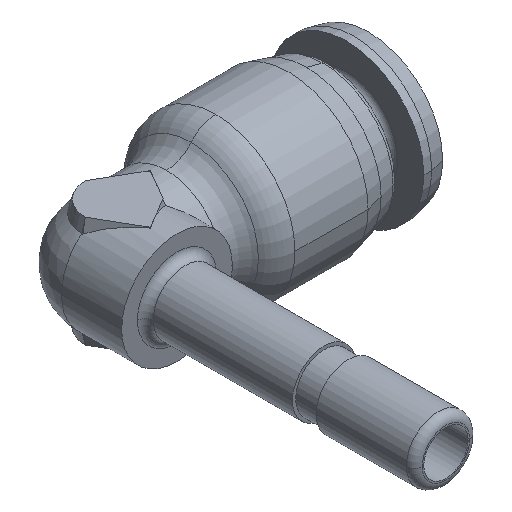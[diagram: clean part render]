
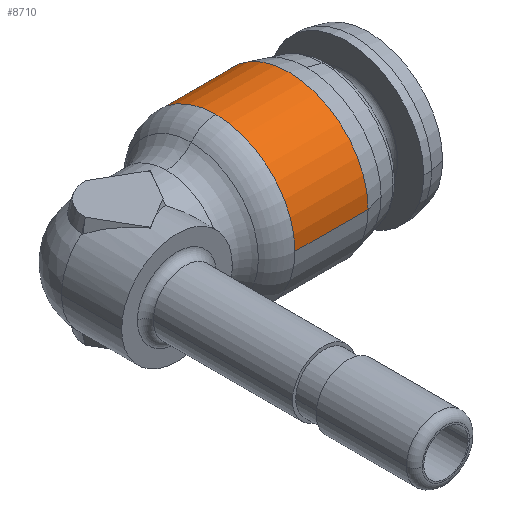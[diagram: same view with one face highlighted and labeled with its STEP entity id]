
A CAD part, isometric view. The second image highlights one B-rep face of the part: STEP entity #8710.
In plain terms, the highlighted cylindrical face has radius 5 mm (diameter 10 mm), a partial arc.
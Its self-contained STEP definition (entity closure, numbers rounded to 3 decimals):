
#33 = CARTESIAN_POINT ( 'NONE',  ( 6.256, 0., 5. ) ) ;
#73 = LINE ( 'NONE', #4154, #2238 ) ;
#185 = ORIENTED_EDGE ( 'NONE', *, *, #1945, .F. ) ;
#266 = VERTEX_POINT ( 'NONE', #2298 ) ;
#426 = CARTESIAN_POINT ( 'NONE',  ( 6.256, 0., 0. ) ) ;
#608 = ORIENTED_EDGE ( 'NONE', *, *, #8296, .F. ) ;
#633 = CARTESIAN_POINT ( 'NONE',  ( 6.256, 0., 0. ) ) ;
#659 = EDGE_CURVE ( 'NONE', #5166, #266, #4257, .T. ) ;
#1052 = DIRECTION ( 'NONE',  ( 1., 0., 0. ) ) ;
#1136 = AXIS2_PLACEMENT_3D ( 'NONE', #426, #5481, #1154 ) ;
#1154 = DIRECTION ( 'NONE',  ( 0., 0., 1. ) ) ;
#1370 = DIRECTION ( 'NONE',  ( 0., 0., 1. ) ) ;
#1410 = ORIENTED_EDGE ( 'NONE', *, *, #5561, .F. ) ;
#1945 = EDGE_CURVE ( 'NONE', #7526, #266, #3255, .T. ) ;
#2198 = ORIENTED_EDGE ( 'NONE', *, *, #659, .T. ) ;
#2238 = VECTOR ( 'NONE', #9237, 1000. ) ;
#2298 = CARTESIAN_POINT ( 'NONE',  ( 10.88, -5., 0. ) ) ;
#2577 = CARTESIAN_POINT ( 'NONE',  ( 12., -5., 0. ) ) ;
#3255 = CIRCLE ( 'NONE', #4081, 5. ) ;
#3706 = CIRCLE ( 'NONE', #5424, 5. ) ;
#3881 = CARTESIAN_POINT ( 'NONE',  ( 12., 0., 0. ) ) ;
#4069 = CARTESIAN_POINT ( 'NONE',  ( 6.256, 5., 0. ) ) ;
#4081 = AXIS2_PLACEMENT_3D ( 'NONE', #5384, #1052, #6124 ) ;
#4154 = CARTESIAN_POINT ( 'NONE',  ( 12., 5., 0. ) ) ;
#4170 = EDGE_CURVE ( 'NONE', #7953, #7526, #73, .T. ) ;
#4257 = LINE ( 'NONE', #2577, #4703 ) ;
#4703 = VECTOR ( 'NONE', #9101, 1000. ) ;
#4712 = CARTESIAN_POINT ( 'NONE',  ( 10.88, 5., 0. ) ) ;
#4796 = VERTEX_POINT ( 'NONE', #33 ) ;
#5166 = VERTEX_POINT ( 'NONE', #8079 ) ;
#5384 = CARTESIAN_POINT ( 'NONE',  ( 10.88, 0., 0. ) ) ;
#5424 = AXIS2_PLACEMENT_3D ( 'NONE', #633, #5699, #1370 ) ;
#5481 = DIRECTION ( 'NONE',  ( -1., 0., 0. ) ) ;
#5484 = CIRCLE ( 'NONE', #1136, 5. ) ;
#5561 = EDGE_CURVE ( 'NONE', #4796, #7953, #3706, .T. ) ;
#5699 = DIRECTION ( 'NONE',  ( -1., 0., 0. ) ) ;
#6124 = DIRECTION ( 'NONE',  ( 0., 1., 0. ) ) ;
#6573 = ORIENTED_EDGE ( 'NONE', *, *, #4170, .F. ) ;
#6847 = EDGE_LOOP ( 'NONE', ( #608, #2198, #185, #6573, #1410 ) ) ;
#6955 = FACE_OUTER_BOUND ( 'NONE', #6847, .T. ) ;
#7526 = VERTEX_POINT ( 'NONE', #4712 ) ;
#7953 = VERTEX_POINT ( 'NONE', #4069 ) ;
#8021 = DIRECTION ( 'NONE',  ( 1., 0., 0. ) ) ;
#8079 = CARTESIAN_POINT ( 'NONE',  ( 6.256, -5., 0. ) ) ;
#8210 = CYLINDRICAL_SURFACE ( 'NONE', #9402, 5. ) ;
#8296 = EDGE_CURVE ( 'NONE', #5166, #4796, #5484, .T. ) ;
#8710 = ADVANCED_FACE ( 'NONE', ( #6955 ), #8210, .T. ) ;
#8950 = DIRECTION ( 'NONE',  ( 0., 1., 0. ) ) ;
#9101 = DIRECTION ( 'NONE',  ( 1., 0., 0. ) ) ;
#9237 = DIRECTION ( 'NONE',  ( 1., 0., 0. ) ) ;
#9402 = AXIS2_PLACEMENT_3D ( 'NONE', #3881, #8021, #8950 ) ;
